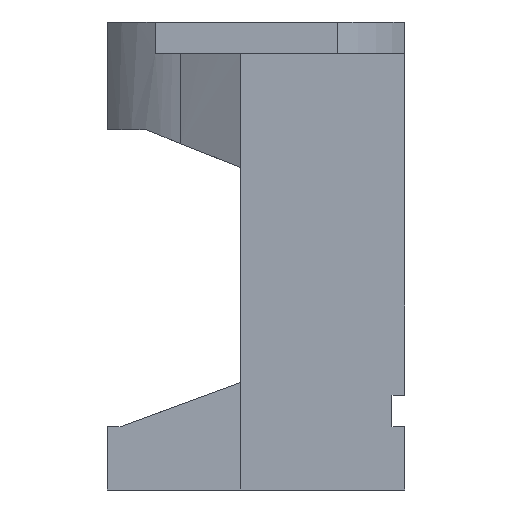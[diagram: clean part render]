
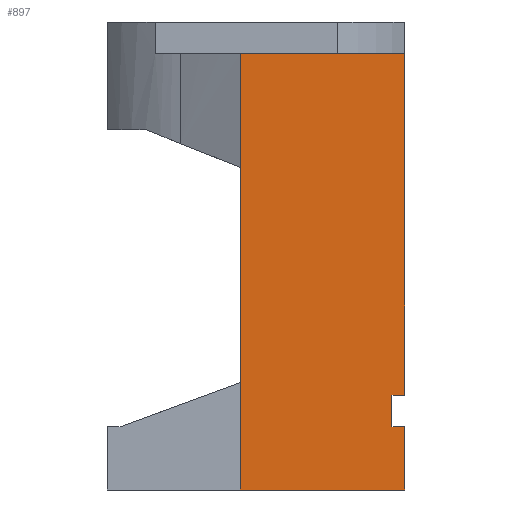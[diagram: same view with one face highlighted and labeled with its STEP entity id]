
A CAD part, left-side view. The second image highlights one B-rep face of the part: STEP entity #897.
In plain terms, the highlighted planar face has unit normal (-1, 0, 0).
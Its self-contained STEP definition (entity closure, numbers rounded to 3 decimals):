
#207 = LINE ( 'NONE', #2003, #2163 ) ;
#257 = LINE ( 'NONE', #3059, #1886 ) ;
#354 = LINE ( 'NONE', #2936, #3756 ) ;
#393 = LINE ( 'NONE', #2924, #3146 ) ;
#414 = FACE_OUTER_BOUND ( 'NONE', #1130, .T. ) ;
#531 = LINE ( 'NONE', #3637, #2369 ) ;
#532 = LINE ( 'NONE', #3633, #2371 ) ;
#543 = LINE ( 'NONE', #3302, #2377 ) ;
#544 = LINE ( 'NONE', #3345, #2379 ) ;
#641 = EDGE_CURVE ( 'NONE', #1611, #1610, #207, .T. ) ;
#723 = EDGE_CURVE ( 'NONE', #1551, #1611, #257, .T. ) ;
#817 = EDGE_CURVE ( 'NONE', #1529, #1552, #354, .T. ) ;
#880 = EDGE_CURVE ( 'NONE', #1552, #1551, #393, .T. ) ;
#897 = ADVANCED_FACE ( 'NONE', ( #414 ), #2912, .T. ) ;
#1130 = EDGE_LOOP ( 'NONE', ( #1776, #1774, #1777, #1775, #1773, #1772, #1771, #1478 ) ) ;
#1478 = ORIENTED_EDGE ( 'NONE', *, *, #817, .F. ) ;
#1516 = VERTEX_POINT ( 'NONE', #3429 ) ;
#1517 = VERTEX_POINT ( 'NONE', #3280 ) ;
#1525 = VERTEX_POINT ( 'NONE', #3426 ) ;
#1529 = VERTEX_POINT ( 'NONE', #3430 ) ;
#1551 = VERTEX_POINT ( 'NONE', #3735 ) ;
#1552 = VERTEX_POINT ( 'NONE', #3349 ) ;
#1610 = VERTEX_POINT ( 'NONE', #3459 ) ;
#1611 = VERTEX_POINT ( 'NONE', #3434 ) ;
#1771 = ORIENTED_EDGE ( 'NONE', *, *, #880, .F. ) ;
#1772 = ORIENTED_EDGE ( 'NONE', *, *, #723, .F. ) ;
#1773 = ORIENTED_EDGE ( 'NONE', *, *, #641, .F. ) ;
#1774 = ORIENTED_EDGE ( 'NONE', *, *, #3860, .F. ) ;
#1775 = ORIENTED_EDGE ( 'NONE', *, *, #3867, .F. ) ;
#1776 = ORIENTED_EDGE ( 'NONE', *, *, #3866, .F. ) ;
#1777 = ORIENTED_EDGE ( 'NONE', *, *, #3858, .F. ) ;
#1886 = VECTOR ( 'NONE', #3056, 1000. ) ;
#1997 = DIRECTION ( 'NONE',  ( 0., 1., 0. ) ) ;
#2003 = CARTESIAN_POINT ( 'NONE',  ( -32.5, 1., -5. ) ) ;
#2163 = VECTOR ( 'NONE', #1997, 1000. ) ;
#2369 = VECTOR ( 'NONE', #3368, 1000. ) ;
#2371 = VECTOR ( 'NONE', #3513, 1000. ) ;
#2377 = VECTOR ( 'NONE', #3517, 1000. ) ;
#2379 = VECTOR ( 'NONE', #3723, 1000. ) ;
#2504 = DIRECTION ( 'NONE',  ( 0., -1., 0. ) ) ;
#2754 = DIRECTION ( 'NONE',  ( 0., 1., 0. ) ) ;
#2759 = DIRECTION ( 'NONE',  ( -1., 0., 0. ) ) ;
#2840 = DIRECTION ( 'NONE',  ( 0., 0., -1. ) ) ;
#2909 = CARTESIAN_POINT ( 'NONE',  ( -32.5, -25., 64. ) ) ;
#2912 = PLANE ( 'NONE',  #3165 ) ;
#2924 = CARTESIAN_POINT ( 'NONE',  ( -32.5, -25., 5. ) ) ;
#2936 = CARTESIAN_POINT ( 'NONE',  ( -32.5, -23., 64. ) ) ;
#3056 = DIRECTION ( 'NONE',  ( 0., 0., -1. ) ) ;
#3059 = CARTESIAN_POINT ( 'NONE',  ( -32.5, -25., 64. ) ) ;
#3146 = VECTOR ( 'NONE', #2504, 1000. ) ;
#3165 = AXIS2_PLACEMENT_3D ( 'NONE', #2909, #2759, #2754 ) ;
#3280 = CARTESIAN_POINT ( 'NONE',  ( -32.5, -25., 64. ) ) ;
#3302 = CARTESIAN_POINT ( 'NONE',  ( -32.5, -25., 10. ) ) ;
#3345 = CARTESIAN_POINT ( 'NONE',  ( -32.5, 1., 64. ) ) ;
#3349 = CARTESIAN_POINT ( 'NONE',  ( -32.5, -23., 5. ) ) ;
#3368 = DIRECTION ( 'NONE',  ( 0., -1., 0. ) ) ;
#3426 = CARTESIAN_POINT ( 'NONE',  ( -32.5, 1., 64. ) ) ;
#3429 = CARTESIAN_POINT ( 'NONE',  ( -32.5, -25., 10. ) ) ;
#3430 = CARTESIAN_POINT ( 'NONE',  ( -32.5, -23., 10. ) ) ;
#3434 = CARTESIAN_POINT ( 'NONE',  ( -32.5, -25., -5. ) ) ;
#3459 = CARTESIAN_POINT ( 'NONE',  ( -32.5, 1., -5. ) ) ;
#3513 = DIRECTION ( 'NONE',  ( 0., 0., -1. ) ) ;
#3517 = DIRECTION ( 'NONE',  ( 0., 1., 0. ) ) ;
#3633 = CARTESIAN_POINT ( 'NONE',  ( -32.5, -25., 64. ) ) ;
#3637 = CARTESIAN_POINT ( 'NONE',  ( -32.5, 1., 64. ) ) ;
#3723 = DIRECTION ( 'NONE',  ( 0., 0., 1. ) ) ;
#3735 = CARTESIAN_POINT ( 'NONE',  ( -32.5, -25., 5. ) ) ;
#3756 = VECTOR ( 'NONE', #2840, 1000. ) ;
#3858 = EDGE_CURVE ( 'NONE', #1525, #1517, #531, .T. ) ;
#3860 = EDGE_CURVE ( 'NONE', #1517, #1516, #532, .T. ) ;
#3866 = EDGE_CURVE ( 'NONE', #1516, #1529, #543, .T. ) ;
#3867 = EDGE_CURVE ( 'NONE', #1610, #1525, #544, .T. ) ;
